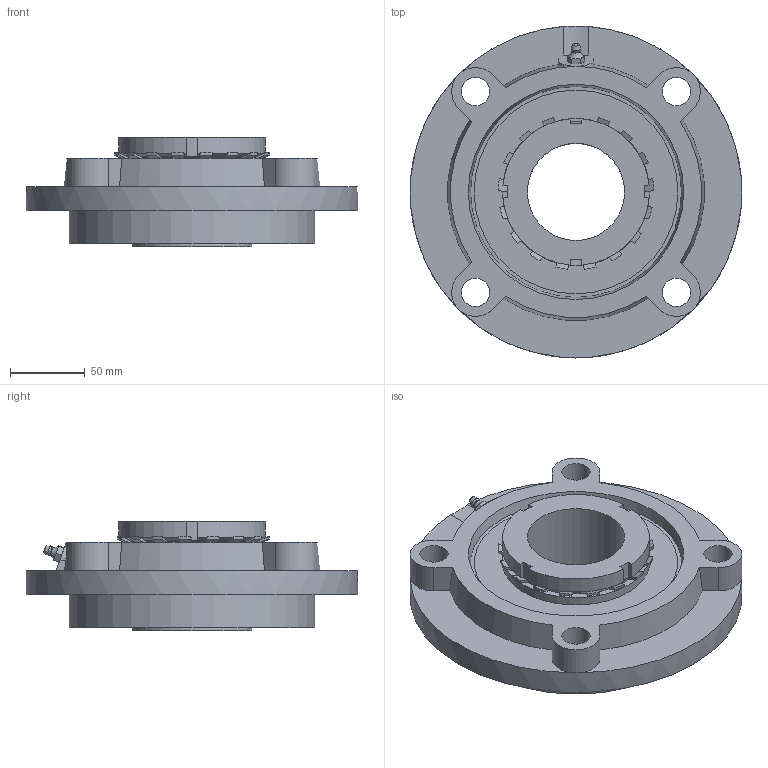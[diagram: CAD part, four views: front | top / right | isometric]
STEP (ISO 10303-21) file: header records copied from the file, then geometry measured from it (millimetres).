
FILE_DESCRIPTION((''),'2;1');
FILE_NAME('\\Ts-tgl068\j-cad-d-base\00.3DCADデータ作成フォルダ\02.フランジ形\UKFCX\UKFCX15+H.stp','2014-12-10T08:25:12',('btec_1106_2'),(''),'Autodesk Inventor 2012','Autodesk Inventor 2012','');
FILE_SCHEMA(('AUTOMOTIVE_DESIGN { 1 0 10303 214 1 1 1 1 }'));
Length unit declared in the file: millimetre
Products named in the file (4): UKFCX00+H; FCX15; UKX15+H; G1
Assembly tree (3 placements, depth 2):
  UKFCX00+H
    FCX15
    UKX15+H
    G1
Bounding box: 222 x 222 x 73 mm (x, y, z)
Volume: 1145271.8 mm3; surface area: 186607.7 mm2
Topology: 3 solids, 3 shells, 205 faces, 522 edges, 331 vertices
Faces by surface type: plane 89, cylinder 56, cone 54, sphere 4, torus 2
Full cylindrical faces by diameter (mm): 8.566 x1, 9.728 x1, 19 x4, 65 x1, 75 x1, 98.5 x2, 164 x1, 222 x1
Entity records: 6117 total; most frequent: CARTESIAN_POINT 1316, DIRECTION 984, ORIENTED_EDGE 982, EDGE_CURVE 491, AXIS2_PLACEMENT_3D 398, VERTEX_POINT 323, EDGE_LOOP 252, FACE_OUTER_BOUND 205
